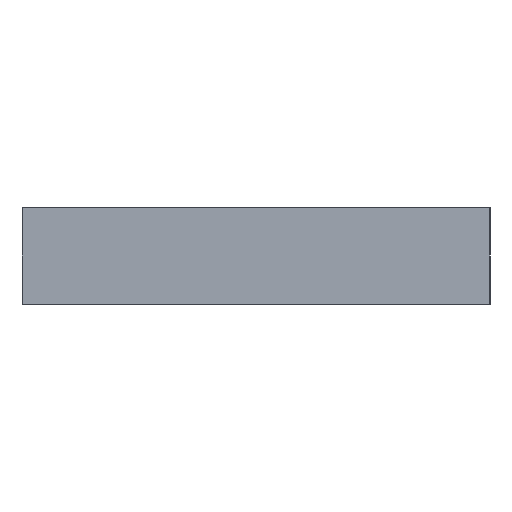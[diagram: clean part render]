
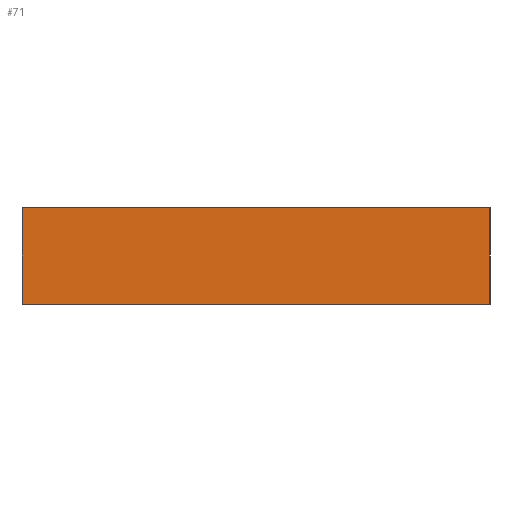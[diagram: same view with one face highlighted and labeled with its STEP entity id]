
A CAD part, left-side view. The second image highlights one B-rep face of the part: STEP entity #71.
In plain terms, the highlighted planar face has unit normal (-1, 0, 0).
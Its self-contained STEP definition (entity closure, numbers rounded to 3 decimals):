
#71 = ADVANCED_FACE( '', ( #141 ), #142, .F. );
#141 = FACE_OUTER_BOUND( '', #211, .T. );
#142 = PLANE( '', #212 );
#211 = EDGE_LOOP( '', ( #277, #278, #279, #280 ) );
#212 = AXIS2_PLACEMENT_3D( '', #281, #282, #283 );
#277 = ORIENTED_EDGE( '', *, *, #389, .T. );
#278 = ORIENTED_EDGE( '', *, *, #390, .F. );
#279 = ORIENTED_EDGE( '', *, *, #391, .F. );
#280 = ORIENTED_EDGE( '', *, *, #392, .T. );
#281 = CARTESIAN_POINT( '', ( -6., 0., 3.5 ) );
#282 = DIRECTION( '', ( 1., 0., 0. ) );
#283 = DIRECTION( '', ( 0., 0., -1. ) );
#389 = EDGE_CURVE( '', #441, #442, #443, .T. );
#390 = EDGE_CURVE( '', #444, #442, #445, .T. );
#391 = EDGE_CURVE( '', #446, #444, #447, .T. );
#392 = EDGE_CURVE( '', #446, #441, #448, .T. );
#441 = VERTEX_POINT( '', #509 );
#442 = VERTEX_POINT( '', #510 );
#443 = LINE( '', #511, #512 );
#444 = VERTEX_POINT( '', #513 );
#445 = LINE( '', #514, #515 );
#446 = VERTEX_POINT( '', #516 );
#447 = LINE( '', #517, #518 );
#448 = LINE( '', #519, #520 );
#509 = CARTESIAN_POINT( '', ( -6., 0., -3.5 ) );
#510 = CARTESIAN_POINT( '', ( -6., -34., -3.5 ) );
#511 = CARTESIAN_POINT( '', ( -6., 0., -3.5 ) );
#512 = VECTOR( '', #598, 1000. );
#513 = CARTESIAN_POINT( '', ( -6., -34., 3.5 ) );
#514 = CARTESIAN_POINT( '', ( -6., -34., 3.5 ) );
#515 = VECTOR( '', #599, 1000. );
#516 = CARTESIAN_POINT( '', ( -6., 0., 3.5 ) );
#517 = CARTESIAN_POINT( '', ( -6., 0., 3.5 ) );
#518 = VECTOR( '', #600, 1000. );
#519 = CARTESIAN_POINT( '', ( -6., 0., 3.5 ) );
#520 = VECTOR( '', #601, 1000. );
#598 = DIRECTION( '', ( 0., -1., 0. ) );
#599 = DIRECTION( '', ( 0., 0., -1. ) );
#600 = DIRECTION( '', ( 0., -1., 0. ) );
#601 = DIRECTION( '', ( 0., 0., -1. ) );
